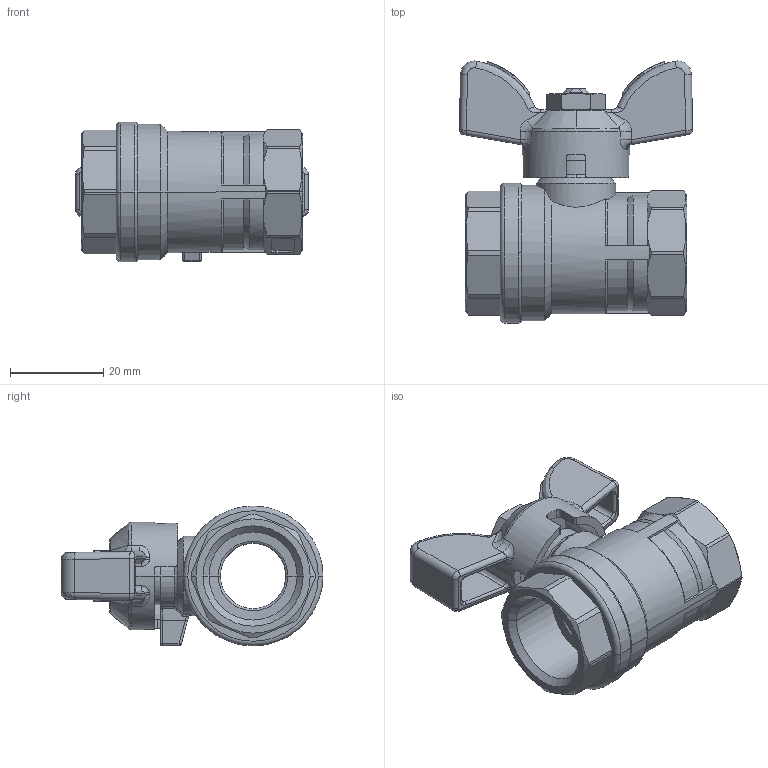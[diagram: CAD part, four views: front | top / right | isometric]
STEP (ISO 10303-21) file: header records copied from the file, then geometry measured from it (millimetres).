
FILE_DESCRIPTION(('OneSpaceDesigner STEP Export'),'2;1');
FILE_NAME('1520040000.stp','2009-04-22T16:52:50',(''),(''),'OneSpace Designer STEP processor for AP214 (Solid Model)','OneSpace Modeling 15.50C 25-Jan-2008 (C) CoCreate Software GmbH','');
FILE_SCHEMA(('AUTOMOTIVE_DESIGN { 1 0 10303 214 1 1 1 1 }'));
Length unit declared in the file: millimetre
Products named in the file (2): 1520040000
Assembly tree (1 placements, depth 2):
  1520040000
    1520040000
Bounding box: 50 x 56.2 x 30 mm (x, y, z)
Volume: 23432.9 mm3; surface area: 12646.5 mm2
Topology: 1 solids, 1 shells, 647 faces, 1687 edges, 1058 vertices
Faces by surface type: cylinder 255, plane 204, cone 89, bspline 79, torus 14, sphere 4, extrusion 2
Entity records: 37573 total; most frequent: CARTESIAN_POINT 23629, ORIENTED_EDGE 3362, DIRECTION 2048, EDGE_CURVE 1681, VERTEX_POINT 1058, AXIS2_PLACEMENT_3D 717, EDGE_LOOP 677, FACE_OUTER_BOUND 647
